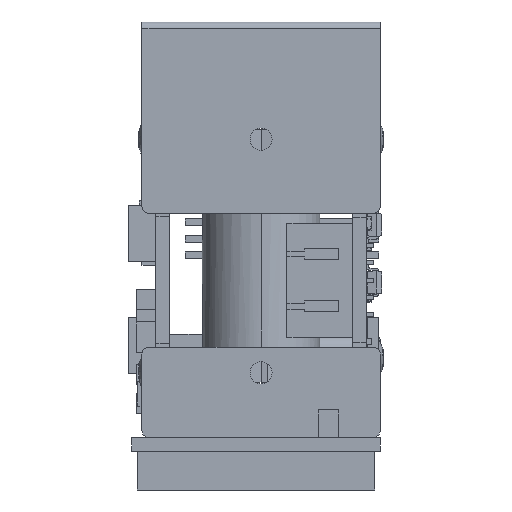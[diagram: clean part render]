
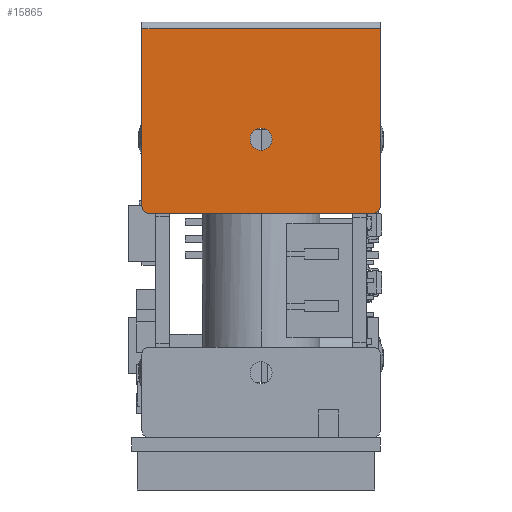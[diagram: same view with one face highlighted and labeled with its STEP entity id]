
A CAD part, left-side view. The second image highlights one B-rep face of the part: STEP entity #15865.
In plain terms, the highlighted planar face has unit normal (-1, 0, 0).
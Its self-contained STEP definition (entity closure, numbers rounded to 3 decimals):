
#846 = CARTESIAN_POINT ( 'NONE',  ( -15.375, 0., 37.6 ) ) ;
#884 = VERTEX_POINT ( 'NONE', #39579 ) ;
#1253 = VERTEX_POINT ( 'NONE', #12427 ) ;
#1749 = PLANE ( 'NONE',  #21342 ) ;
#2536 = CARTESIAN_POINT ( 'NONE',  ( -15.375, -21.514, 24.25 ) ) ;
#3493 = LINE ( 'NONE', #30757, #17805 ) ;
#3791 = EDGE_CURVE ( 'NONE', #36574, #1253, #30273, .T. ) ;
#4393 = DIRECTION ( 'NONE',  ( 0., 1., 0. ) ) ;
#5239 = CARTESIAN_POINT ( 'NONE',  ( -15.375, -8.125, 24.75 ) ) ;
#6077 = AXIS2_PLACEMENT_3D ( 'NONE', #30080, #43628, #16776 ) ;
#6090 = EDGE_CURVE ( 'NONE', #884, #1253, #26571, .T. ) ;
#6730 = CARTESIAN_POINT ( 'NONE',  ( -15.375, 8.625, 37.6 ) ) ;
#6779 = CIRCLE ( 'NONE', #6077, 0.8 ) ;
#7042 = VERTEX_POINT ( 'NONE', #23679 ) ;
#7255 = ORIENTED_EDGE ( 'NONE', *, *, #9620, .T. ) ;
#7302 = VERTEX_POINT ( 'NONE', #6730 ) ;
#7521 = LINE ( 'NONE', #846, #14466 ) ;
#8577 = ORIENTED_EDGE ( 'NONE', *, *, #13763, .F. ) ;
#8814 = EDGE_LOOP ( 'NONE', ( #32609, #35844 ) ) ;
#9620 = EDGE_CURVE ( 'NONE', #36574, #7042, #24773, .T. ) ;
#10161 = DIRECTION ( 'NONE',  ( -1., 0., 0. ) ) ;
#10680 = EDGE_CURVE ( 'NONE', #34245, #7302, #7521, .T. ) ;
#11446 = ORIENTED_EDGE ( 'NONE', *, *, #6090, .T. ) ;
#11837 = LINE ( 'NONE', #14931, #23832 ) ;
#11915 = VERTEX_POINT ( 'NONE', #28365 ) ;
#12427 = CARTESIAN_POINT ( 'NONE',  ( -15.375, 8.125, 24.25 ) ) ;
#13186 = DIRECTION ( 'NONE',  ( 0., 1., 0. ) ) ;
#13763 = EDGE_CURVE ( 'NONE', #884, #7302, #11837, .T. ) ;
#14466 = VECTOR ( 'NONE', #4393, 1000. ) ;
#14601 = VECTOR ( 'NONE', #13186, 1000. ) ;
#14931 = CARTESIAN_POINT ( 'NONE',  ( -15.375, 8.625, 38.1 ) ) ;
#15477 = DIRECTION ( 'NONE',  ( 0., 1., 0. ) ) ;
#15865 = ADVANCED_FACE ( 'NONE', ( #36147, #32793 ), #1749, .T. ) ;
#16776 = DIRECTION ( 'NONE',  ( 0., -1., 0. ) ) ;
#17223 = ORIENTED_EDGE ( 'NONE', *, *, #3791, .F. ) ;
#17805 = VECTOR ( 'NONE', #23653, 1000. ) ;
#17970 = CARTESIAN_POINT ( 'NONE',  ( -15.375, 0.8, 29.6 ) ) ;
#18035 = DIRECTION ( 'NONE',  ( 0., 0., 1. ) ) ;
#18121 = DIRECTION ( 'NONE',  ( -1., 0., 0. ) ) ;
#18793 = DIRECTION ( 'NONE',  ( -1., 0., 0. ) ) ;
#19697 = DIRECTION ( 'NONE',  ( 0., 1., 0. ) ) ;
#20088 = DIRECTION ( 'NONE',  ( 0., 1., 0. ) ) ;
#21342 = AXIS2_PLACEMENT_3D ( 'NONE', #39038, #10161, #19697 ) ;
#21789 = ORIENTED_EDGE ( 'NONE', *, *, #24523, .T. ) ;
#22225 = EDGE_CURVE ( 'NONE', #23837, #11915, #30393, .T. ) ;
#23358 = AXIS2_PLACEMENT_3D ( 'NONE', #5239, #18121, #20088 ) ;
#23653 = DIRECTION ( 'NONE',  ( 0., 0., 1. ) ) ;
#23679 = CARTESIAN_POINT ( 'NONE',  ( -15.375, -8.625, 24.75 ) ) ;
#23806 = CARTESIAN_POINT ( 'NONE',  ( -15.375, 0., 29.6 ) ) ;
#23832 = VECTOR ( 'NONE', #18035, 1000. ) ;
#23837 = VERTEX_POINT ( 'NONE', #17970 ) ;
#24523 = EDGE_CURVE ( 'NONE', #7042, #34245, #3493, .T. ) ;
#24773 = CIRCLE ( 'NONE', #23358, 0.5 ) ;
#26571 = CIRCLE ( 'NONE', #27999, 0.5 ) ;
#27999 = AXIS2_PLACEMENT_3D ( 'NONE', #32128, #18793, #15477 ) ;
#28365 = CARTESIAN_POINT ( 'NONE',  ( -15.375, -0.8, 29.6 ) ) ;
#30080 = CARTESIAN_POINT ( 'NONE',  ( -15.375, 0., 29.6 ) ) ;
#30273 = LINE ( 'NONE', #2536, #14601 ) ;
#30393 = CIRCLE ( 'NONE', #39612, 0.8 ) ;
#30757 = CARTESIAN_POINT ( 'NONE',  ( -15.375, -8.625, 38.1 ) ) ;
#32128 = CARTESIAN_POINT ( 'NONE',  ( -15.375, 8.125, 24.75 ) ) ;
#32609 = ORIENTED_EDGE ( 'NONE', *, *, #22225, .T. ) ;
#32793 = FACE_OUTER_BOUND ( 'NONE', #35620, .T. ) ;
#34041 = DIRECTION ( 'NONE',  ( 0., -1., 0. ) ) ;
#34245 = VERTEX_POINT ( 'NONE', #35889 ) ;
#35343 = CARTESIAN_POINT ( 'NONE',  ( -15.375, -8.125, 24.25 ) ) ;
#35620 = EDGE_LOOP ( 'NONE', ( #42020, #8577, #11446, #17223, #7255, #21789 ) ) ;
#35844 = ORIENTED_EDGE ( 'NONE', *, *, #41784, .T. ) ;
#35889 = CARTESIAN_POINT ( 'NONE',  ( -15.375, -8.625, 37.6 ) ) ;
#36147 = FACE_BOUND ( 'NONE', #8814, .T. ) ;
#36574 = VERTEX_POINT ( 'NONE', #35343 ) ;
#39038 = CARTESIAN_POINT ( 'NONE',  ( -15.375, 0., 38.1 ) ) ;
#39579 = CARTESIAN_POINT ( 'NONE',  ( -15.375, 8.625, 24.75 ) ) ;
#39612 = AXIS2_PLACEMENT_3D ( 'NONE', #23806, #40265, #34041 ) ;
#40265 = DIRECTION ( 'NONE',  ( 1., 0., 0. ) ) ;
#41784 = EDGE_CURVE ( 'NONE', #11915, #23837, #6779, .T. ) ;
#42020 = ORIENTED_EDGE ( 'NONE', *, *, #10680, .T. ) ;
#43628 = DIRECTION ( 'NONE',  ( 1., 0., 0. ) ) ;
